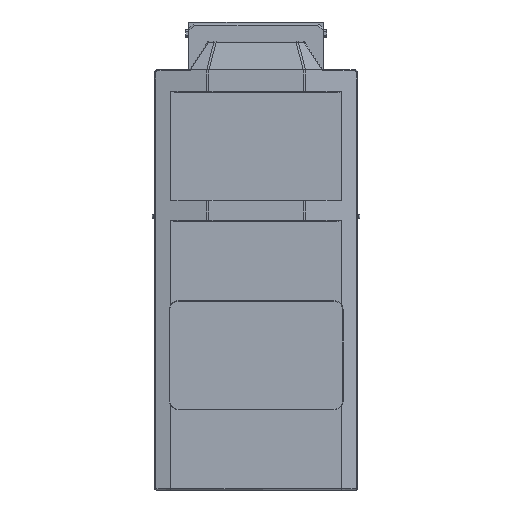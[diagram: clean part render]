
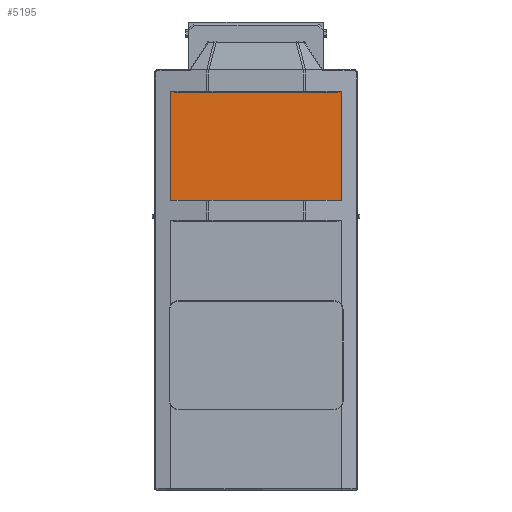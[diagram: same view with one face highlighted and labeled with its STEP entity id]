
A CAD part, top view. The second image highlights one B-rep face of the part: STEP entity #5195.
In plain terms, the highlighted planar face has unit normal (0, 0, 1).
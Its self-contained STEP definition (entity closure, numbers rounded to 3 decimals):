
#55=DIRECTION('',(-1.,0.,0.));
#56=VECTOR('',#55,8.236);
#57=CARTESIAN_POINT('',(37.722,-219.878,136.871));
#58=LINE('',#57,#56);
#64=DIRECTION('',(1.,0.,0.));
#65=VECTOR('',#64,1.2);
#66=CARTESIAN_POINT('',(-0.6,-219.878,136.871));
#67=LINE('',#66,#65);
#73=DIRECTION('',(-1.,0.,0.));
#74=VECTOR('',#73,8.236);
#75=CARTESIAN_POINT('',(-29.486,-219.878,136.871));
#76=LINE('',#75,#74);
#95=CARTESIAN_POINT('',(39.462,-219.578,136.871));
#96=CARTESIAN_POINT('',(39.462,-219.62,136.871));
#97=CARTESIAN_POINT('',(39.409,-219.652,136.871));
#98=CARTESIAN_POINT('',(39.298,-219.712,136.871));
#99=CARTESIAN_POINT('',(39.131,-219.756,136.871));
#100=CARTESIAN_POINT('',(38.917,-219.798,136.871));
#101=CARTESIAN_POINT('',(38.617,-219.838,136.871));
#102=CARTESIAN_POINT('',(38.224,-219.869,136.871));
#103=CARTESIAN_POINT('',(37.892,-219.878,136.871));
#104=CARTESIAN_POINT('',(37.722,-219.878,136.871));
#110=DIRECTION('',(0.,1.,0.));
#111=VECTOR('',#110,50.6);
#112=CARTESIAN_POINT('',(39.462,-270.178,136.871));
#113=LINE('',#112,#111);
#161=CARTESIAN_POINT('',(39.462,-270.178,136.871));
#162=CARTESIAN_POINT('',(39.462,-270.135,136.871));
#163=CARTESIAN_POINT('',(39.409,-270.103,136.871));
#164=CARTESIAN_POINT('',(39.298,-270.044,136.871));
#165=CARTESIAN_POINT('',(39.131,-269.999,136.871));
#166=CARTESIAN_POINT('',(38.917,-269.958,136.871));
#167=CARTESIAN_POINT('',(38.617,-269.917,136.871));
#168=CARTESIAN_POINT('',(38.224,-269.886,136.871));
#169=CARTESIAN_POINT('',(37.892,-269.878,136.871));
#170=CARTESIAN_POINT('',(37.722,-269.878,136.871));
#172=DIRECTION('',(1.,0.,0.));
#173=VECTOR('',#172,8.236);
#174=CARTESIAN_POINT('',(-37.722,-269.878,136.871));
#175=LINE('',#174,#173);
#181=DIRECTION('',(-1.,0.,0.));
#182=VECTOR('',#181,1.2);
#183=CARTESIAN_POINT('',(0.6,-269.878,136.871));
#184=LINE('',#183,#182);
#190=DIRECTION('',(1.,0.,0.));
#191=VECTOR('',#190,8.198);
#192=CARTESIAN_POINT('',(29.524,-269.878,136.871));
#193=LINE('',#192,#191);
#212=CARTESIAN_POINT('',(-39.462,-270.178,136.871));
#213=CARTESIAN_POINT('',(-39.462,-270.135,136.871));
#214=CARTESIAN_POINT('',(-39.409,-270.103,136.871));
#215=CARTESIAN_POINT('',(-39.298,-270.044,136.871));
#216=CARTESIAN_POINT('',(-39.131,-269.999,136.871));
#217=CARTESIAN_POINT('',(-38.917,-269.958,136.871));
#218=CARTESIAN_POINT('',(-38.617,-269.917,136.871));
#219=CARTESIAN_POINT('',(-38.224,-269.886,136.871));
#220=CARTESIAN_POINT('',(-37.892,-269.878,136.871));
#221=CARTESIAN_POINT('',(-37.722,-269.878,136.871));
#227=DIRECTION('',(0.,-1.,0.));
#228=VECTOR('',#227,50.6);
#229=CARTESIAN_POINT('',(-39.462,-219.578,136.871));
#230=LINE('',#229,#228);
#266=CARTESIAN_POINT('',(-37.722,-219.878,136.871));
#267=CARTESIAN_POINT('',(-37.892,-219.878,136.871));
#268=CARTESIAN_POINT('',(-38.224,-219.869,136.871));
#269=CARTESIAN_POINT('',(-38.617,-219.838,136.871));
#270=CARTESIAN_POINT('',(-38.917,-219.798,136.871));
#271=CARTESIAN_POINT('',(-39.131,-219.756,136.871));
#272=CARTESIAN_POINT('',(-39.298,-219.712,136.871));
#273=CARTESIAN_POINT('',(-39.409,-219.652,136.871));
#274=CARTESIAN_POINT('',(-39.462,-219.62,136.871));
#275=CARTESIAN_POINT('',(-39.462,-219.578,136.871));
#899=DIRECTION('',(1.,0.,0.));
#900=VECTOR('',#899,28.886);
#901=CARTESIAN_POINT('',(-29.486,-269.878,136.871));
#902=LINE('',#901,#900);
#1321=DIRECTION('',(1.,0.,0.));
#1322=VECTOR('',#1321,28.924);
#1323=CARTESIAN_POINT('',(0.6,-269.878,136.871));
#1324=LINE('',#1323,#1322);
#1622=DIRECTION('',(1.,0.,0.));
#1623=VECTOR('',#1622,28.886);
#1624=CARTESIAN_POINT('',(-29.486,-219.878,
136.871));
#1625=LINE('',#1624,#1623);
#2031=DIRECTION('',(1.,0.,0.));
#2032=VECTOR('',#2031,28.886);
#2033=CARTESIAN_POINT('',(0.6,-219.878,136.871));
#2034=LINE('',#2033,#2032);
#4909=CARTESIAN_POINT('',(-0.6,-219.878,136.871));
#4910=CARTESIAN_POINT('',(0.6,-219.878,136.871));
#4911=VERTEX_POINT('',#4909);
#4912=VERTEX_POINT('',#4910);
#4913=CARTESIAN_POINT('',(0.6,-269.878,136.871));
#4914=CARTESIAN_POINT('',(-0.6,-269.878,136.871));
#4915=VERTEX_POINT('',#4913);
#4916=VERTEX_POINT('',#4914);
#4917=CARTESIAN_POINT('',(29.486,-219.878,136.871));
#4918=VERTEX_POINT('',#4917);
#4919=CARTESIAN_POINT('',(-29.486,-219.878,
136.871));
#4920=VERTEX_POINT('',#4919);
#4921=CARTESIAN_POINT('',(-29.486,-269.878,
136.871));
#4922=VERTEX_POINT('',#4921);
#4923=CARTESIAN_POINT('',(29.524,-269.878,136.871));
#4924=VERTEX_POINT('',#4923);
#4925=CARTESIAN_POINT('',(-37.722,-269.878,
136.871));
#4926=VERTEX_POINT('',#4925);
#4927=CARTESIAN_POINT('',(37.722,-269.878,136.871));
#4928=VERTEX_POINT('',#4927);
#4929=CARTESIAN_POINT('',(37.722,-219.878,136.871));
#4930=VERTEX_POINT('',#4929);
#4931=CARTESIAN_POINT('',(-37.722,-219.878,
136.871));
#4932=VERTEX_POINT('',#4931);
#4933=CARTESIAN_POINT('',(39.462,-270.178,136.871));
#4934=CARTESIAN_POINT('',(39.462,-219.578,136.871));
#4935=VERTEX_POINT('',#4933);
#4936=VERTEX_POINT('',#4934);
#4937=CARTESIAN_POINT('',(-39.462,-219.578,
136.871));
#4938=CARTESIAN_POINT('',(-39.462,-270.178,
136.871));
#4939=VERTEX_POINT('',#4937);
#4940=VERTEX_POINT('',#4938);
#5162=CARTESIAN_POINT('',(-48.,-274.878,
136.871));
#5163=DIRECTION('',(0.,0.,1.));
#5164=DIRECTION('',(1.,0.,0.));
#5165=AXIS2_PLACEMENT_3D('',#5162,#5163,#5164);
#5166=PLANE('',#5165);
#5167=ORIENTED_EDGE('',*,*,#5098,.F.);
#5168=ORIENTED_EDGE('',*,*,#5113,.F.);
#5169=ORIENTED_EDGE('',*,*,#5152,.T.);
#5171=ORIENTED_EDGE('',*,*,#5170,.F.);
#5173=ORIENTED_EDGE('',*,*,#5172,.F.);
#5175=ORIENTED_EDGE('',*,*,#5174,.T.);
#5177=ORIENTED_EDGE('',*,*,#5176,.F.);
#5179=ORIENTED_EDGE('',*,*,#5178,.F.);
#5181=ORIENTED_EDGE('',*,*,#5180,.F.);
#5183=ORIENTED_EDGE('',*,*,#5182,.F.);
#5185=ORIENTED_EDGE('',*,*,#5184,.F.);
#5186=ORIENTED_EDGE('',*,*,#5079,.F.);
#5188=ORIENTED_EDGE('',*,*,#5187,.T.);
#5189=ORIENTED_EDGE('',*,*,#5065,.T.);
#5191=ORIENTED_EDGE('',*,*,#5190,.T.);
#5192=ORIENTED_EDGE('',*,*,#5051,.F.);
#5193=EDGE_LOOP('',(#5167,#5168,#5169,#5171,#5173,#5175,#5177,#5179,#5181,#5183,
#5185,#5186,#5188,#5189,#5191,#5192));
#5194=FACE_OUTER_BOUND('',#5193,.F.);
#5195=ADVANCED_FACE('',(#5194),#5166,.T.);
#105=B_SPLINE_CURVE_WITH_KNOTS('',3,(#95,#96,#97,#98,#99,#100,#101,#102,#103,
#104),.UNSPECIFIED.,.F.,.F.,(4,1,1,1,1,1,1,4),(0.,0.063,0.125,0.25,
0.375,0.5,0.75,1.),.UNSPECIFIED.);
#171=B_SPLINE_CURVE_WITH_KNOTS('',3,(#161,#162,#163,#164,#165,#166,#167,#168,
#169,#170),.UNSPECIFIED.,.F.,.F.,(4,1,1,1,1,1,1,4),(0.,0.063,0.125,0.25,
0.375,0.5,0.75,1.),.UNSPECIFIED.);
#222=B_SPLINE_CURVE_WITH_KNOTS('',3,(#212,#213,#214,#215,#216,#217,#218,#219,
#220,#221),.UNSPECIFIED.,.F.,.F.,(4,1,1,1,1,1,1,4),(0.,0.063,0.125,0.25,
0.375,0.5,0.75,1.),.UNSPECIFIED.);
#276=B_SPLINE_CURVE_WITH_KNOTS('',3,(#266,#267,#268,#269,#270,#271,#272,#273,
#274,#275),.UNSPECIFIED.,.F.,.F.,(4,1,1,1,1,1,1,4),(0.,0.25,0.5,0.625,
0.75,0.875,0.938,1.),.UNSPECIFIED.);
#5051=EDGE_CURVE('',#4930,#4918,#58,.T.);
#5065=EDGE_CURVE('',#4911,#4912,#67,.T.);
#5079=EDGE_CURVE('',#4920,#4932,#76,.T.);
#5098=EDGE_CURVE('',#4936,#4930,#105,.T.);
#5113=EDGE_CURVE('',#4935,#4936,#113,.T.);
#5152=EDGE_CURVE('',#4935,#4928,#171,.T.);
#5170=EDGE_CURVE('',#4924,#4928,#193,.T.);
#5172=EDGE_CURVE('',#4915,#4924,#1324,.T.);
#5174=EDGE_CURVE('',#4915,#4916,#184,.T.);
#5176=EDGE_CURVE('',#4922,#4916,#902,.T.);
#5178=EDGE_CURVE('',#4926,#4922,#175,.T.);
#5180=EDGE_CURVE('',#4940,#4926,#222,.T.);
#5182=EDGE_CURVE('',#4939,#4940,#230,.T.);
#5184=EDGE_CURVE('',#4932,#4939,#276,.T.);
#5187=EDGE_CURVE('',#4920,#4911,#1625,.T.);
#5190=EDGE_CURVE('',#4912,#4918,#2034,.T.);
